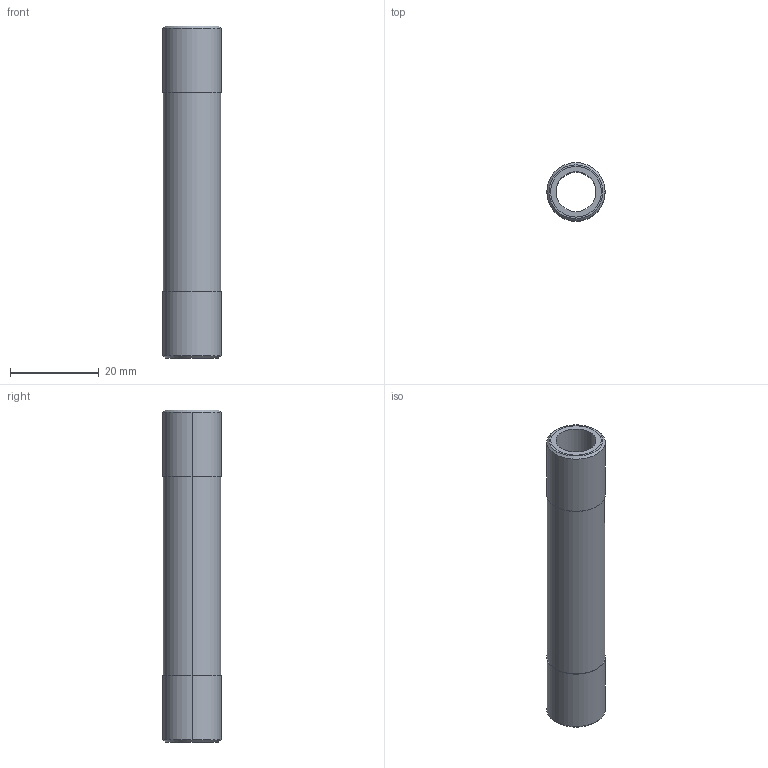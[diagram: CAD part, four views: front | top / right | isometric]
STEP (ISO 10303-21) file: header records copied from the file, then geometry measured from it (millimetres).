
FILE_DESCRIPTION (( 'STEP AP214' ), '1' );
FILE_NAME ('BruyRubio_BR88-1_4_GAS_x_75.STEP', '2019-12-17T12:23:09', ( '' ), ( '' ), 'SwSTEP 2.0', 'SolidWorks 2017', '' );
FILE_SCHEMA (( 'AUTOMOTIVE_DESIGN' ));
Length unit declared in the file: millimetre
Products named in the file (1): BruyRubio_BR88-1_4_GAS_x_75
Bounding box: 13.16 x 13.16 x 75 mm (x, y, z)
Volume: 5270.9 mm3; surface area: 7601 mm2
Topology: 3 solids, 3 shells, 28 faces, 56 edges, 36 vertices
Faces by surface type: cylinder 16, plane 8, cone 4
Entity records: 1116 total; most frequent: DIRECTION 150, CARTESIAN_POINT 121, ORIENTED_EDGE 112, AXIS2_PLACEMENT_3D 65, EDGE_CURVE 56, CIRCLE 36, VERTEX_POINT 36, EDGE_LOOP 36
